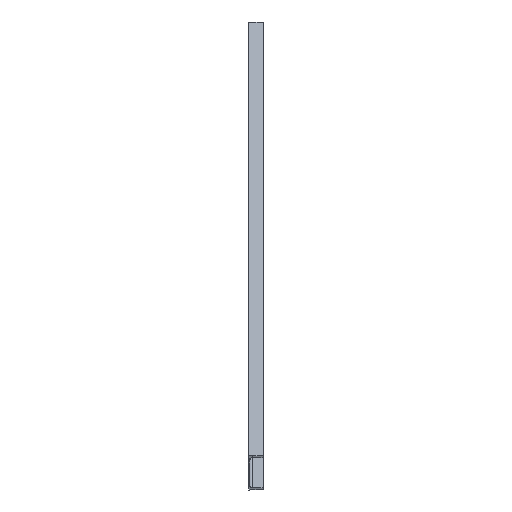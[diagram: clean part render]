
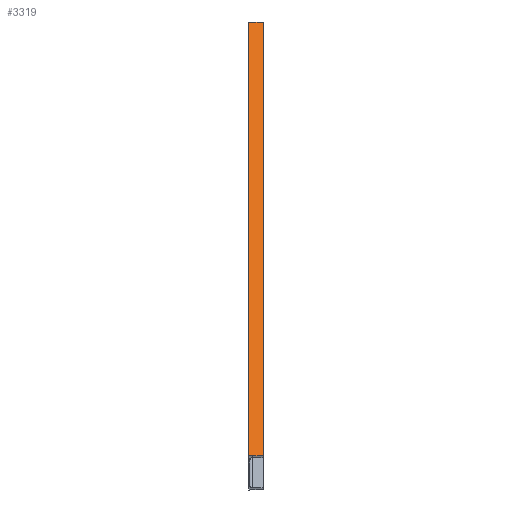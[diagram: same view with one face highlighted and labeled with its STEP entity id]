
A CAD part, left-side view. The second image highlights one B-rep face of the part: STEP entity #3319.
In plain terms, the highlighted planar face has unit normal (-0.707, 0, 0.707).
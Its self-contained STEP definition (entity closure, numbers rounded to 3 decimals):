
#229 = CARTESIAN_POINT ( 'NONE',  ( 11175.442, -66.5, -2210. ) ) ;
#382 = DIRECTION ( 'NONE',  ( -0.707, 0., -0.707 ) ) ;
#478 = VERTEX_POINT ( 'NONE', #4417 ) ;
#618 = ORIENTED_EDGE ( 'NONE', *, *, #924, .T. ) ;
#644 = LINE ( 'NONE', #1006, #886 ) ;
#777 = DIRECTION ( 'NONE',  ( 0.707, 0., 0.707 ) ) ;
#886 = VECTOR ( 'NONE', #4706, 1000. ) ;
#924 = EDGE_CURVE ( 'NONE', #1080, #3486, #644, .T. ) ;
#1006 = CARTESIAN_POINT ( 'NONE',  ( 11175.442, 8.5, -2210. ) ) ;
#1021 = AXIS2_PLACEMENT_3D ( 'NONE', #4405, #3329, #777 ) ;
#1080 = VERTEX_POINT ( 'NONE', #2676 ) ;
#1086 = VERTEX_POINT ( 'NONE', #1945 ) ;
#1150 = FACE_OUTER_BOUND ( 'NONE', #2015, .T. ) ;
#1425 = CARTESIAN_POINT ( 'NONE',  ( 13445.442, 8.5, 60. ) ) ;
#1494 = VECTOR ( 'NONE', #382, 1000. ) ;
#1518 = PLANE ( 'NONE',  #1021 ) ;
#1591 = LINE ( 'NONE', #3689, #1494 ) ;
#1945 = CARTESIAN_POINT ( 'NONE',  ( 13445.442, 8.5, 60. ) ) ;
#2015 = EDGE_LOOP ( 'NONE', ( #618, #4314, #4531, #2443 ) ) ;
#2075 = DIRECTION ( 'NONE',  ( -0.707, 0., -0.707 ) ) ;
#2097 = CARTESIAN_POINT ( 'NONE',  ( 13572.721, 8.5, 187.279 ) ) ;
#2209 = VECTOR ( 'NONE', #2075, 1000. ) ;
#2443 = ORIENTED_EDGE ( 'NONE', *, *, #4175, .T. ) ;
#2551 = DIRECTION ( 'NONE',  ( 0., -1., 0. ) ) ;
#2654 = VECTOR ( 'NONE', #2551, 1000. ) ;
#2676 = CARTESIAN_POINT ( 'NONE',  ( 11175.442, 8.5, -2210. ) ) ;
#2699 = EDGE_CURVE ( 'NONE', #478, #3486, #1591, .T. ) ;
#2822 = LINE ( 'NONE', #1425, #2654 ) ;
#3319 = ADVANCED_FACE ( 'NONE', ( #1150 ), #1518, .F. ) ;
#3329 = DIRECTION ( 'NONE',  ( 0.707, 0., -0.707 ) ) ;
#3486 = VERTEX_POINT ( 'NONE', #229 ) ;
#3531 = LINE ( 'NONE', #2097, #2209 ) ;
#3567 = EDGE_CURVE ( 'NONE', #1086, #478, #2822, .T. ) ;
#3689 = CARTESIAN_POINT ( 'NONE',  ( 13572.721, -66.5, 187.279 ) ) ;
#4175 = EDGE_CURVE ( 'NONE', #1086, #1080, #3531, .T. ) ;
#4314 = ORIENTED_EDGE ( 'NONE', *, *, #2699, .F. ) ;
#4405 = CARTESIAN_POINT ( 'NONE',  ( 13572.721, 8.5, 187.279 ) ) ;
#4417 = CARTESIAN_POINT ( 'NONE',  ( 13445.442, -66.5, 60. ) ) ;
#4531 = ORIENTED_EDGE ( 'NONE', *, *, #3567, .F. ) ;
#4706 = DIRECTION ( 'NONE',  ( 0., -1., 0. ) ) ;
